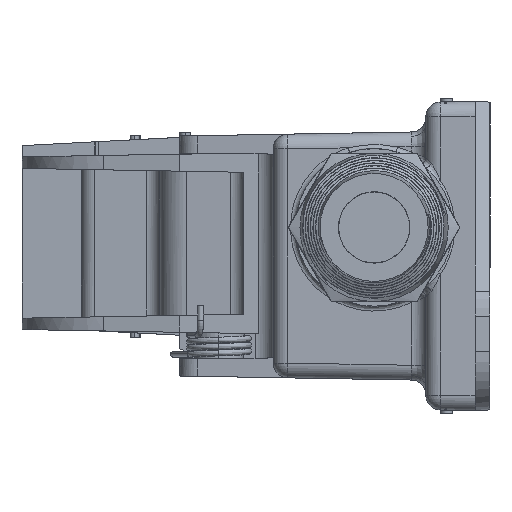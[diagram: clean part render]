
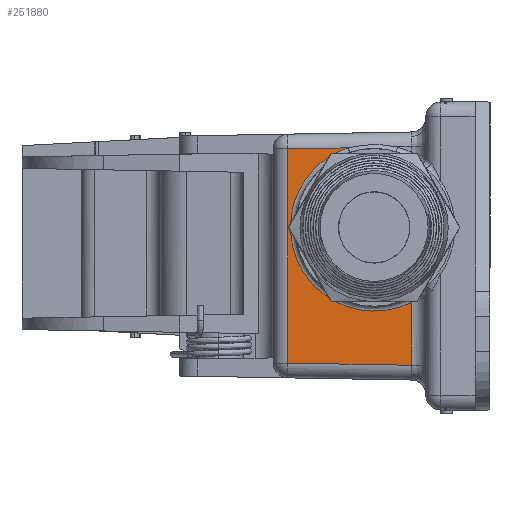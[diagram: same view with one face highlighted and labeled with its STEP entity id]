
A CAD part, left-side view. The second image highlights one B-rep face of the part: STEP entity #251880.
In plain terms, the highlighted planar face has unit normal (-1, 0.018, 0) as drawn and (-1, 0, -0.017) by its records, which use the part's own axes.
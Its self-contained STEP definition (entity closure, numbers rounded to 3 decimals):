
#209350=CARTESIAN_POINT('',(-29.229,-1.27,
-12.909));
#209360=VERTEX_POINT('NONE',#209350);
#220460=CARTESIAN_POINT('',(-29.341,-16.964,
-6.487));
#220470=VERTEX_POINT('NONE',#220460);
#220500=CARTESIAN_POINT('',(-29.341,-16.964,
-6.487));
#220510=CARTESIAN_POINT('',(-29.258,-19.297,
-11.205));
#220520=CARTESIAN_POINT('',(-29.173,-17.435,
-16.129));
#220530=CARTESIAN_POINT('',(-29.138,-12.564,
-18.122));
#220540=CARTESIAN_POINT('',(-29.103,-7.692,
-20.115));
#220550=CARTESIAN_POINT('',(-29.141,-2.913,
-17.909));
#220560=CARTESIAN_POINT('',(-29.229,-1.27,
-12.909));
#220570=(BOUNDED_CURVE() B_SPLINE_CURVE(3,(#220500,#220510,#220520,
#220530,#220540,#220550,#220560),.UNSPECIFIED.,.F.,.F.) 
B_SPLINE_CURVE_WITH_KNOTS((4,3,4),(1.112,2.753,
4.395),.UNSPECIFIED.) CURVE() GEOMETRIC_REPRESENTATION_ITEM() 
RATIONAL_B_SPLINE_CURVE((1.,0.788,0.788,1.,
0.788,0.788,1.)) REPRESENTATION_ITEM(''));
#220580=EDGE_CURVE('NONE',#220470,#209360,#220570,.T.);
#251180=CARTESIAN_POINT('',(-29.122,-1.377,
-19.039));
#251190=VERTEX_POINT('NONE',#251180);
#251480=CARTESIAN_POINT('',(-28.993,-1.505,
-26.414));
#251490=DIRECTION('',(0.017,-0.017,
-1.));
#251500=VECTOR('',#251490,1000.);
#251510=LINE('',#251480,#251500);
#251520=EDGE_CURVE('NONE',#209360,#251190,#251510,.T.);
#251570=CARTESIAN_POINT('',(-29.,-24.499,-26.013));
#251580=DIRECTION('',(-1.,0.,
-0.017));
#251590=DIRECTION('',(-0.017,0.,
1.));
#251600=AXIS2_PLACEMENT_3D('',#251570,#251580,#251590);
#251610=PLANE('',#251600);
#251620=CARTESIAN_POINT('',(-29.367,-23.366,
-4.987));
#251630=DIRECTION('',(-0.017,-0.017,
1.));
#251640=VECTOR('',#251630,1000.);
#251650=LINE('',#251620,#251640);
#251660=CARTESIAN_POINT('',(-29.122,-23.121,
-19.039));
#251670=VERTEX_POINT('NONE',#251660);
#251680=CARTESIAN_POINT('',(-29.341,-23.34,
-6.487));
#251690=VERTEX_POINT('NONE',#251680);
#251700=EDGE_CURVE('NONE',#251670,#251690,#251650,.T.);
#251710=ORIENTED_EDGE('',*,*,#251700,.T.);
#251720=CARTESIAN_POINT('',(-29.122,-24.595,
-19.039));
#251730=DIRECTION('',(0.,-1.,0.));
#251740=VECTOR('',#251730,1000.);
#251750=LINE('',#251720,#251740);
#251760=EDGE_CURVE('NONE',#251190,#251670,#251750,.T.);
#251770=ORIENTED_EDGE('',*,*,#251760,.T.);
#251780=ORIENTED_EDGE('',*,*,#251520,.T.);
#251790=ORIENTED_EDGE('',*,*,#220580,.T.);
#251800=CARTESIAN_POINT('',(-29.341,-24.499,
-6.487));
#251810=DIRECTION('',(0.,1.,0.));
#251820=VECTOR('',#251810,1000.);
#251830=LINE('',#251800,#251820);
#251840=EDGE_CURVE('NONE',#251690,#220470,#251830,.T.);
#251850=ORIENTED_EDGE('',*,*,#251840,.T.);
#251860=EDGE_LOOP('',(#251850,#251790,#251780,#251770,#251710));
#251870=FACE_OUTER_BOUND('',#251860,.T.);
#251880=ADVANCED_FACE('NONE',(#251870),#251610,.T.);
